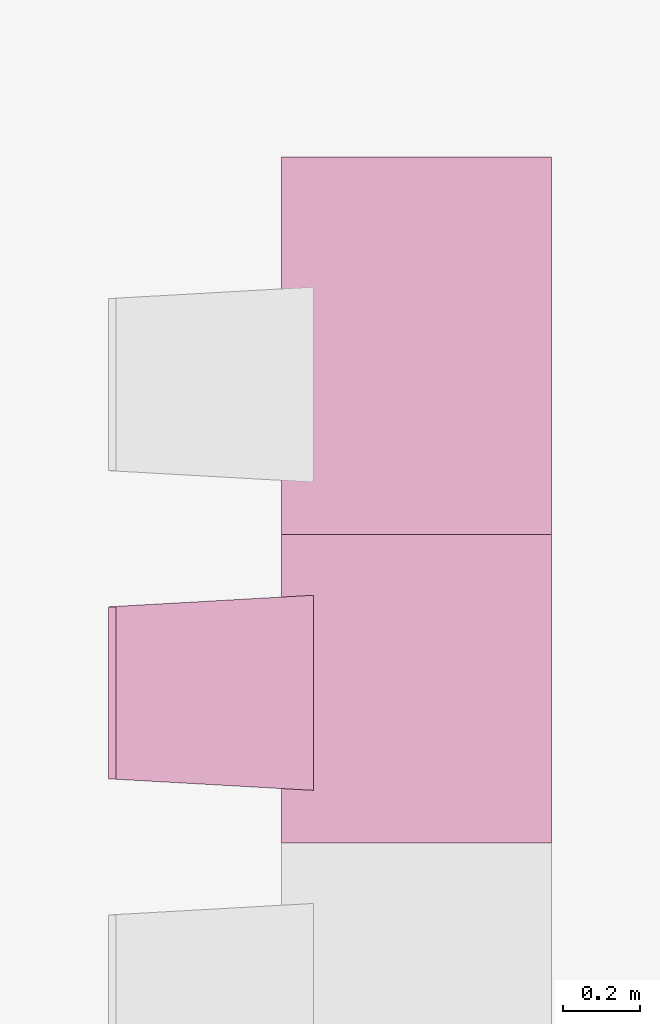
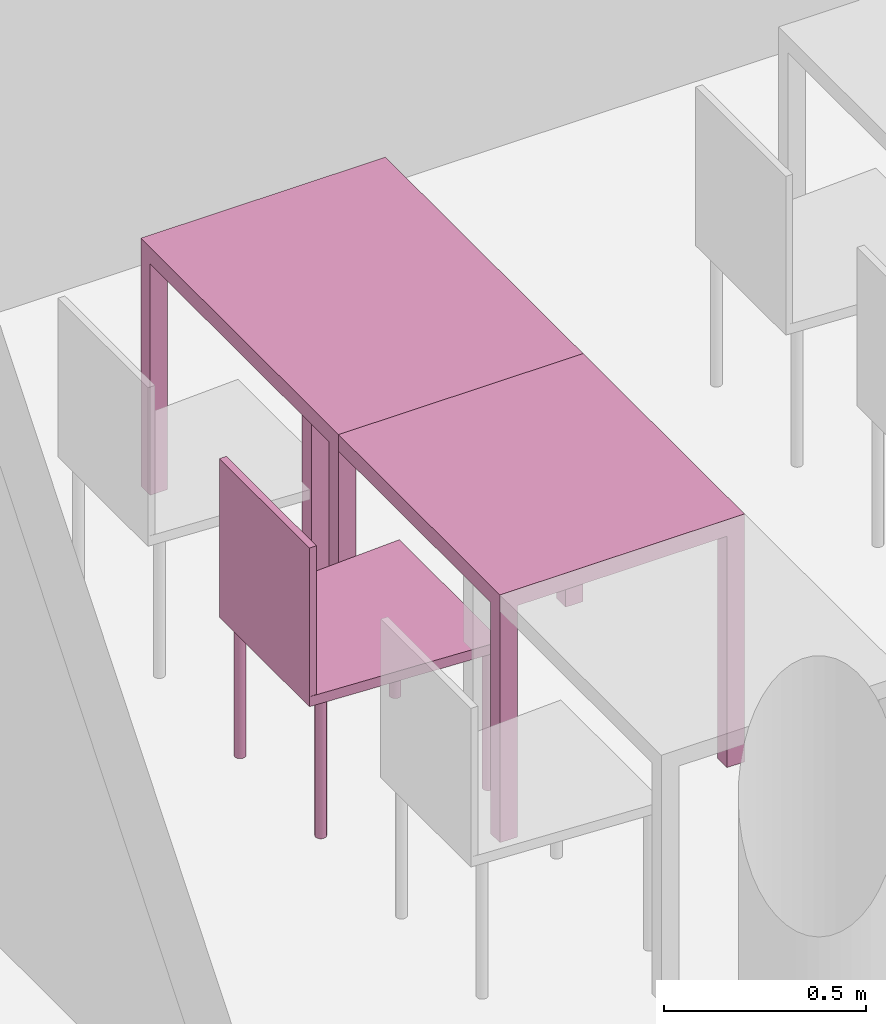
"""IFC4 building model written with IfcOpenShell, lengths in metres."""

from ifc_helpers import new_model, entity, si_unit, converted_unit, derived_unit, frame, origin, place, context, subcontext, project, spatial, faceted_brep, element, save


model = new_model("IFC4")

# Units and contexts
model_context = context("Model", 3, precision=1e-05, world=origin())
body_context = subcontext(model_context, "Body", "Model", "MODEL_VIEW")
ifc_project = project(units=[si_unit("LENGTHUNIT", "METRE"), si_unit("AREAUNIT", "SQUARE_METRE"), si_unit("VOLUMEUNIT", "CUBIC_METRE"), si_unit("MASSUNIT", "GRAM", prefix="KILO"), converted_unit("PLANEANGLEUNIT", "DEGREE", entity("IfcPlaneAngleMeasure", 0.0174532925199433), si_unit("PLANEANGLEUNIT", "RADIAN"), dimensions=[0, 0, 0, 0, 0, 0, 0]), derived_unit("THERMALTRANSMITTANCEUNIT", [(si_unit("POWERUNIT", "WATT"), 1), (si_unit("THERMODYNAMICTEMPERATUREUNIT", "KELVIN"), -1), (si_unit("LENGTHUNIT", "METRE"), -2)]), derived_unit("VOLUMETRICFLOWRATEUNIT", [(si_unit("LENGTHUNIT", "METRE"), 3), (converted_unit("TIMEUNIT", "hour", entity("IfcTimeMeasure", 3600.0), si_unit("TIMEUNIT", "SECOND"), dimensions=[0, 0, 1, 0, 0, 0, 0]), -1), (si_unit("LENGTHUNIT", "METRE"), -1)])], contexts=[model_context])

# Building, storeys
building_placement = place(None, origin())
building = spatial("IfcBuilding", under=ifc_project, at=building_placement, Name="HABITATGE PLURIFAMILIAR", CompositionType="ELEMENT")
storey_1_placement = place(building_placement, frame((0.0, 0.0, 3.35)))
storey_1 = spatial("IfcBuildingStorey", under=building, at=storey_1_placement, Name="PLANTA  ALTELL", CompositionType="ELEMENT", Elevation=3.35)
storey_2_placement = place(storey_1_placement, origin())
storey_2 = spatial("IfcBuildingStorey", under=storey_1, at=storey_2_placement, Name="NOU", CompositionType="PARTIAL")

# Furniture
furniture_1_placement = place(storey_2_placement, frame((410.511020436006, 15.6434480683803, 0.0)))
element("IfcFurniture", 1, at=furniture_1_placement, inside=storey_2, Name="Taula 80X70_PA", context=body_context, shape_type="Brep", body=[
    faceted_brep([(0.0, 0.0464285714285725, 0.0), (0.0, 0.0, 0.0), (0.0500000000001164, 0.0, 0.0), (0.0500000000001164, 0.0464285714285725, 0.0), (0.0500000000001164, 0.0464285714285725, 0.7), (0.0500000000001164, 0.0, 0.7), (0.0, 0.0, 0.7), (0.0, 0.0464285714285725, 0.7)], [[[0, 1, 2, 3]], [[4, 5, 6, 7]], [[3, 4, 7, 0]], [[2, 5, 4, 3]], [[1, 6, 5, 2]], [[0, 7, 6, 1]]], orient=[[False], [False], [False], [False], [False], [False]]),
    faceted_brep([(0.0, 0.98, 0.7), (0.0, 0.0, 0.7), (0.700069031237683, 0.0, 0.7), (0.700069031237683, 0.98, 0.7), (0.700069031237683, 0.98, 0.75), (0.700069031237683, 0.0, 0.75), (0.0, 0.0, 0.75), (0.0, 0.98, 0.75)], [[[0, 1, 2, 3]], [[4, 5, 6, 7]], [[3, 4, 7, 0]], [[2, 5, 4, 3]], [[1, 6, 5, 2]], [[0, 7, 6, 1]]], orient=[[False], [False], [False], [False], [False], [False]]),
    faceted_brep([(0.0, 0.98, 0.0), (0.0, 0.933571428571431, 0.0), (0.05, 0.933571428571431, 0.0), (0.05, 0.98, 0.0), (0.05, 0.98, 0.7), (0.05, 0.933571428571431, 0.7), (0.0, 0.933571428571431, 0.7), (0.0, 0.98, 0.7)], [[[0, 1, 2, 3]], [[4, 5, 6, 7]], [[3, 4, 7, 0]], [[2, 5, 4, 3]], [[1, 6, 5, 2]], [[0, 7, 6, 1]]], orient=[[False], [False], [False], [False], [False], [False]]),
    faceted_brep([(0.650069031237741, 0.98, 0.0), (0.650069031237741, 0.933571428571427, 0.0), (0.700069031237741, 0.933571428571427, 0.0), (0.700069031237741, 0.98, 0.0), (0.700069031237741, 0.98, 0.7), (0.700069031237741, 0.933571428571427, 0.7), (0.650069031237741, 0.933571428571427, 0.7), (0.650069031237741, 0.98, 0.7)], [[[0, 1, 2, 3]], [[4, 5, 6, 7]], [[3, 4, 7, 0]], [[2, 5, 4, 3]], [[1, 6, 5, 2]], [[0, 7, 6, 1]]], orient=[[False], [False], [False], [False], [False], [False]]),
    faceted_brep([(0.650069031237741, 0.0464285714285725, 0.0), (0.650069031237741, 0.0, 0.0), (0.700069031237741, 0.0, 0.0), (0.700069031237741, 0.0464285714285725, 0.0), (0.700069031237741, 0.0464285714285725, 0.7), (0.700069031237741, 0.0, 0.7), (0.650069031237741, 0.0, 0.7), (0.650069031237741, 0.0464285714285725, 0.7)], [[[0, 1, 2, 3]], [[4, 5, 6, 7]], [[3, 4, 7, 0]], [[2, 5, 4, 3]], [[1, 6, 5, 2]], [[0, 7, 6, 1]]], orient=[[False], [False], [False], [False], [False], [False]]),
])
furniture_2_placement = place(storey_2_placement, frame((410.511020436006, 14.8434480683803, 0.0)))
element("IfcFurniture", 2, at=furniture_2_placement, inside=storey_2, Name="Taula 80X70_PA", context=body_context, shape_type="Brep", body=[
    faceted_brep([(0.0, 0.0464285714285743, 0.0), (0.0, 0.0, 0.0), (0.0500000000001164, 0.0, 0.0), (0.0500000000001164, 0.0464285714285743, 0.0), (0.0500000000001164, 0.0464285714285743, 0.7), (0.0500000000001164, 0.0, 0.7), (0.0, 0.0, 0.7), (0.0, 0.0464285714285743, 0.7)], [[[0, 1, 2, 3]], [[4, 5, 6, 7]], [[3, 4, 7, 0]], [[2, 5, 4, 3]], [[1, 6, 5, 2]], [[0, 7, 6, 1]]], orient=[[False], [False], [False], [False], [False], [False]]),
    faceted_brep([(0.0, 0.98, 0.7), (0.0, 0.0, 0.7), (0.700069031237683, 0.0, 0.7), (0.700069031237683, 0.98, 0.7), (0.700069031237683, 0.98, 0.75), (0.700069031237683, 0.0, 0.75), (0.0, 0.0, 0.75), (0.0, 0.98, 0.75)], [[[0, 1, 2, 3]], [[4, 5, 6, 7]], [[3, 4, 7, 0]], [[2, 5, 4, 3]], [[1, 6, 5, 2]], [[0, 7, 6, 1]]], orient=[[False], [False], [False], [False], [False], [False]]),
    faceted_brep([(0.0, 0.980000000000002, 0.0), (0.0, 0.933571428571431, 0.0), (0.05, 0.933571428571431, 0.0), (0.05, 0.980000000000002, 0.0), (0.05, 0.980000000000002, 0.7), (0.05, 0.933571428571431, 0.7), (0.0, 0.933571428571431, 0.7), (0.0, 0.980000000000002, 0.7)], [[[0, 1, 2, 3]], [[4, 5, 6, 7]], [[3, 4, 7, 0]], [[2, 5, 4, 3]], [[1, 6, 5, 2]], [[0, 7, 6, 1]]], orient=[[False], [False], [False], [False], [False], [False]]),
    faceted_brep([(0.650069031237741, 0.98, 0.0), (0.650069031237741, 0.933571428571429, 0.0), (0.700069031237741, 0.933571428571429, 0.0), (0.700069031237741, 0.98, 0.0), (0.700069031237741, 0.98, 0.7), (0.700069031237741, 0.933571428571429, 0.7), (0.650069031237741, 0.933571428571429, 0.7), (0.650069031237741, 0.98, 0.7)], [[[0, 1, 2, 3]], [[4, 5, 6, 7]], [[3, 4, 7, 0]], [[2, 5, 4, 3]], [[1, 6, 5, 2]], [[0, 7, 6, 1]]], orient=[[False], [False], [False], [False], [False], [False]]),
    faceted_brep([(0.650069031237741, 0.0464285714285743, 0.0), (0.650069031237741, 0.0, 0.0), (0.700069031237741, 0.0, 0.0), (0.700069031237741, 0.0464285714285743, 0.0), (0.700069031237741, 0.0464285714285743, 0.7), (0.700069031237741, 0.0, 0.7), (0.650069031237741, 0.0, 0.7), (0.650069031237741, 0.0464285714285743, 0.7)], [[[0, 1, 2, 3]], [[4, 5, 6, 7]], [[3, 4, 7, 0]], [[2, 5, 4, 3]], [[1, 6, 5, 2]], [[0, 7, 6, 1]]], orient=[[False], [False], [False], [False], [False], [False]]),
])
furniture_3_placement = place(storey_2_placement, frame((410.061879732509, 14.9796818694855, 0.0499839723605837)))
element("IfcFurniture", 3, at=furniture_3_placement, inside=storey_2, Name="Cadira confident_PA", context=body_context, shape_type="Brep", body=[
    faceted_brep([(0.507575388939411, 0.0391636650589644, 0.0), (0.504980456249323, 0.0389479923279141, 0.0), (0.502462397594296, 0.0382849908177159, 0.0), (0.500097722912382, 0.0371948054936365, 0.0), (0.497958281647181, 0.0357105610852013, 0.0), (0.49610907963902, 0.0338773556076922, 0.0), (0.494606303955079, 0.0317508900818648, 0.0), (0.493495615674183, 0.0293957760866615, 0.0), (0.492810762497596, 0.0268835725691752, 0.0), (0.492572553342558, 0.0242906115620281, 0.0), (0.492788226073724, 0.0216956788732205, 0.0), (0.49345122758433, 0.019177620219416, 0.0), (0.494541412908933, 0.0168129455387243, 0.0), (0.496025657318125, 0.0146735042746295, 0.0), (0.497858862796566, 0.0128243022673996, 0.0), (0.499985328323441, 0.0113215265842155, 0.0), (0.502340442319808, 0.0102108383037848, 0.0), (0.504852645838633, 0.00952598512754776, 0.0), (0.507445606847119, 0.00928777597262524, 0.0), (0.510040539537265, 0.00950344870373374, 0.0), (0.512558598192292, 0.010166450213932, 0.0), (0.514923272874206, 0.0112566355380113, 0.0), (0.517062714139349, 0.0127408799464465, 0.0), (0.51891191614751, 0.0145740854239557, 0.0), (0.520414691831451, 0.0167005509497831, 0.0), (0.521525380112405, 0.0190556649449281, 0.0), (0.522210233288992, 0.0215678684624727, 0.0), (0.522448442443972, 0.024160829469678, 0.0), (0.522232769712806, 0.0267557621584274, 0.0), (0.5215697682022, 0.0292738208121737, 0.0), (0.520479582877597, 0.0316384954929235, 0.0), (0.518995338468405, 0.0337779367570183, 0.0), (0.517162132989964, 0.0356271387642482, 0.0), (0.515035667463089, 0.0371299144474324, 0.0), (0.512680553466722, 0.038240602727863, 0.0), (0.510168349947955, 0.0389254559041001, 0.0), (0.507575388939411, 0.0391636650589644, 0.448281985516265), (0.510168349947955, 0.0389254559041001, 0.448281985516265), (0.512680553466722, 0.038240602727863, 0.448281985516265), (0.515035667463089, 0.0371299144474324, 0.448281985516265), (0.517162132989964, 0.0356271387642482, 0.448281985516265), (0.518995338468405, 0.0337779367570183, 0.448281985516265), (0.520479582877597, 0.0316384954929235, 0.448281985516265), (0.5215697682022, 0.0292738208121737, 0.448281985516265), (0.522232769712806, 0.0267557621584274, 0.448281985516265), (0.522448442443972, 0.024160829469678, 0.448281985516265), (0.522210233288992, 0.0215678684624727, 0.448281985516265), (0.521525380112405, 0.0190556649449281, 0.448281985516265), (0.520414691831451, 0.0167005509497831, 0.448281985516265), (0.51891191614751, 0.0145740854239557, 0.448281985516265), (0.517062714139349, 0.0127408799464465, 0.448281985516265), (0.514923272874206, 0.0112566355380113, 0.448281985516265), (0.512558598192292, 0.010166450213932, 0.448281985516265), (0.510040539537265, 0.00950344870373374, 0.448281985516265), (0.507445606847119, 0.00928777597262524, 0.448281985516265), (0.504852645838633, 0.00952598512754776, 0.448281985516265), (0.502340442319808, 0.0102108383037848, 0.448281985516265), (0.499985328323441, 0.0113215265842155, 0.448281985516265), (0.497858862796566, 0.0128243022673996, 0.448281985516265), (0.496025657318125, 0.0146735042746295, 0.448281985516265), (0.494541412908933, 0.0168129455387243, 0.448281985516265), (0.49345122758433, 0.019177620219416, 0.448281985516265), (0.492788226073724, 0.0216956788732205, 0.448281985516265), (0.492572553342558, 0.0242906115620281, 0.448281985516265), (0.492810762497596, 0.0268835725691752, 0.448281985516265), (0.493495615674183, 0.0293957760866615, 0.448281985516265), (0.494606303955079, 0.0317508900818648, 0.448281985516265), (0.49610907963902, 0.0338773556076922, 0.448281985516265), (0.497958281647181, 0.0357105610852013, 0.448281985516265), (0.500097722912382, 0.0371948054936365, 0.448281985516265), (0.502462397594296, 0.0382849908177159, 0.448281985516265), (0.504980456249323, 0.0389479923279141, 0.448281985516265)], [[[0, 1, 2, 3, 4, 5, 6, 7, 8, 9, 10, 11, 12, 13, 14, 15, 16, 17, 18, 19, 20, 21, 22, 23, 24, 25, 26, 27, 28, 29, 30, 31, 32, 33, 34, 35]], [[36, 37, 38, 39, 40, 41, 42, 43, 44, 45, 46, 47, 48, 49, 50, 51, 52, 53, 54, 55, 56, 57, 58, 59, 60, 61, 62, 63, 64, 65, 66, 67, 68, 69, 70, 71]], [[1, 0, 36, 71]], [[2, 1, 71, 70]], [[3, 2, 70, 69]], [[4, 3, 69, 68]], [[5, 4, 68, 67]], [[6, 5, 67, 66]], [[7, 6, 66, 65]], [[8, 7, 65, 64]], [[9, 8, 64, 63]], [[10, 9, 63, 62]], [[11, 10, 62, 61]], [[12, 11, 61, 60]], [[13, 12, 60, 59]], [[14, 13, 59, 58]], [[15, 14, 58, 57]], [[16, 15, 57, 56]], [[17, 16, 56, 55]], [[18, 17, 55, 54]], [[19, 18, 54, 53]], [[20, 19, 53, 52]], [[21, 20, 52, 51]], [[22, 21, 51, 50]], [[23, 22, 50, 49]], [[24, 23, 49, 48]], [[25, 24, 48, 47]], [[26, 25, 47, 46]], [[27, 26, 46, 45]], [[28, 27, 45, 44]], [[29, 28, 44, 43]], [[30, 29, 43, 42]], [[31, 30, 42, 41]], [[32, 31, 41, 40]], [[33, 32, 40, 39]], [[34, 33, 39, 38]], [[35, 34, 38, 37]], [[0, 35, 37, 36]]], orient=[[False], [False], [False], [False], [False], [False], [False], [False], [False], [False], [False], [False], [False], [False], [False], [False], [False], [False], [False], [False], [False], [False], [False], [False], [False], [False], [False], [False], [False], [False], [False], [False], [False], [False], [False], [False], [False], [False]]),
    faceted_brep([(0.0451683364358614, 0.0668016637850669, 0.0), (0.042573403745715, 0.0665859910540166, 0.0), (0.0400553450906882, 0.065922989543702, 0.0), (0.0376906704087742, 0.0648328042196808, 0.0), (0.0355512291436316, 0.0633485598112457, 0.0), (0.0337020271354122, 0.0615153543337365, 0.0), (0.0321992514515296, 0.0593888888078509, 0.0), (0.0310885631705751, 0.057033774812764, 0.0), (0.0304037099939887, 0.0545215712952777, 0.0), (0.0301655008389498, 0.0519286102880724, 0.0), (0.0303811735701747, 0.0493336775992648, 0.0), (0.0310441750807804, 0.0468156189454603, 0.0), (0.0321343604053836, 0.0444509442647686, 0.0), (0.0336186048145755, 0.0423115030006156, 0.0), (0.035451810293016, 0.0404623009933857, 0.0), (0.0375782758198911, 0.0389595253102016, 0.0), (0.0399333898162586, 0.0378488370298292, 0.0), (0.0424455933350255, 0.0371639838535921, 0.0), (0.0450385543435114, 0.0369257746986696, 0.0), (0.0476334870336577, 0.0371414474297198, 0.0), (0.0501515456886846, 0.0378044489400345, 0.0), (0.0525162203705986, 0.0388946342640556, 0.0), (0.0546556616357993, 0.0403788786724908, 0.0), (0.0565048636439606, 0.0422120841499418, 0.0), (0.0580076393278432, 0.0443385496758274, 0.0), (0.0591183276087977, 0.0466936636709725, 0.0), (0.059803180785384, 0.0492058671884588, 0.0), (0.060041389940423, 0.0517988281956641, 0.0), (0.059825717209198, 0.0543937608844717, 0.0), (0.0591627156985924, 0.0569118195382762, 0.0), (0.0580725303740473, 0.0592764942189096, 0.0), (0.0565882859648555, 0.0614159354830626, 0.0), (0.054755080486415, 0.0632651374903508, 0.0), (0.0526286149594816, 0.0647679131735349, 0.0), (0.0502735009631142, 0.0658786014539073, 0.0), (0.0477612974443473, 0.0665634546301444, 0.0), (0.0451683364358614, 0.0668016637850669, 0.448281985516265), (0.0477612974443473, 0.0665634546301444, 0.448281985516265), (0.0502735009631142, 0.0658786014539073, 0.448281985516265), (0.0526286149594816, 0.0647679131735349, 0.448281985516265), (0.054755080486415, 0.0632651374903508, 0.448281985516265), (0.0565882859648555, 0.0614159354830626, 0.448281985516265), (0.0580725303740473, 0.0592764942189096, 0.448281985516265), (0.0591627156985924, 0.0569118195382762, 0.448281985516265), (0.059825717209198, 0.0543937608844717, 0.448281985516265), (0.060041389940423, 0.0517988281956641, 0.448281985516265), (0.059803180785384, 0.0492058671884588, 0.448281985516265), (0.0591183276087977, 0.0466936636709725, 0.448281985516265), (0.0580076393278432, 0.0443385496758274, 0.448281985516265), (0.0565048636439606, 0.0422120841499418, 0.448281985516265), (0.0546556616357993, 0.0403788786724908, 0.448281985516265), (0.0525162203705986, 0.0388946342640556, 0.448281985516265), (0.0501515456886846, 0.0378044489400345, 0.448281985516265), (0.0476334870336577, 0.0371414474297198, 0.448281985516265), (0.0450385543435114, 0.0369257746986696, 0.448281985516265), (0.0424455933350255, 0.0371639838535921, 0.448281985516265), (0.0399333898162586, 0.0378488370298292, 0.448281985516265), (0.0375782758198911, 0.0389595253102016, 0.448281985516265), (0.035451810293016, 0.0404623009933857, 0.448281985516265), (0.0336186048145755, 0.0423115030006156, 0.448281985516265), (0.0321343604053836, 0.0444509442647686, 0.448281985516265), (0.0310441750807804, 0.0468156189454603, 0.448281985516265), (0.0303811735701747, 0.0493336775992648, 0.448281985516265), (0.0301655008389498, 0.0519286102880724, 0.448281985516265), (0.0304037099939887, 0.0545215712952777, 0.448281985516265), (0.0310885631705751, 0.057033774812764, 0.448281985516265), (0.0321992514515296, 0.0593888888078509, 0.448281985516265), (0.0337020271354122, 0.0615153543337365, 0.448281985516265), (0.0355512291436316, 0.0633485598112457, 0.448281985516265), (0.0376906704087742, 0.0648328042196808, 0.448281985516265), (0.0400553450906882, 0.065922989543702, 0.448281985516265), (0.042573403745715, 0.0665859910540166, 0.448281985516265)], [[[0, 1, 2, 3, 4, 5, 6, 7, 8, 9, 10, 11, 12, 13, 14, 15, 16, 17, 18, 19, 20, 21, 22, 23, 24, 25, 26, 27, 28, 29, 30, 31, 32, 33, 34, 35]], [[36, 37, 38, 39, 40, 41, 42, 43, 44, 45, 46, 47, 48, 49, 50, 51, 52, 53, 54, 55, 56, 57, 58, 59, 60, 61, 62, 63, 64, 65, 66, 67, 68, 69, 70, 71]], [[1, 0, 36, 71]], [[2, 1, 71, 70]], [[3, 2, 70, 69]], [[4, 3, 69, 68]], [[5, 4, 68, 67]], [[6, 5, 67, 66]], [[7, 6, 66, 65]], [[8, 7, 65, 64]], [[9, 8, 64, 63]], [[10, 9, 63, 62]], [[11, 10, 62, 61]], [[12, 11, 61, 60]], [[13, 12, 60, 59]], [[14, 13, 59, 58]], [[15, 14, 58, 57]], [[16, 15, 57, 56]], [[17, 16, 56, 55]], [[18, 17, 55, 54]], [[19, 18, 54, 53]], [[20, 19, 53, 52]], [[21, 20, 52, 51]], [[22, 21, 51, 50]], [[23, 22, 50, 49]], [[24, 23, 49, 48]], [[25, 24, 48, 47]], [[26, 25, 47, 46]], [[27, 26, 46, 45]], [[28, 27, 45, 44]], [[29, 28, 44, 43]], [[30, 29, 43, 42]], [[31, 30, 42, 41]], [[32, 31, 41, 40]], [[33, 32, 40, 39]], [[34, 33, 39, 38]], [[35, 34, 38, 37]], [[0, 35, 37, 36]]], orient=[[False], [False], [False], [False], [False], [False], [False], [False], [False], [False], [False], [False], [False], [False], [False], [False], [False], [False], [False], [False], [False], [False], [False], [False], [False], [False], [False], [False], [False], [False], [False], [False], [False], [False], [False], [False], [False], [False]]),
    faceted_brep([(0.507575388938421, 0.499163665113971, 0.0), (0.504980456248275, 0.49894799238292, 0.0), (0.502462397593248, 0.498284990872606, 0.0), (0.500097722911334, 0.497194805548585, 0.0), (0.497958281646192, 0.495710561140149, 0.0), (0.49610907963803, 0.493877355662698, 0.0), (0.49460630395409, 0.491750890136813, 0.0), (0.493495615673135, 0.489395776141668, 0.0), (0.492810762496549, 0.486883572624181, 0.0), (0.492572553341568, 0.484290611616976, 0.0), (0.492788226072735, 0.481695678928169, 0.0), (0.49345122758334, 0.479177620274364, 0.0), (0.494541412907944, 0.476812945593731, 0.0), (0.496025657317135, 0.474673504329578, 0.0), (0.497858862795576, 0.472824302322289, 0.0), (0.499985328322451, 0.471321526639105, 0.0), (0.502340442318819, 0.470210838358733, 0.0), (0.504852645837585, 0.469525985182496, 0.0), (0.507445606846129, 0.469287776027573, 0.0), (0.510040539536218, 0.469503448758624, 0.0), (0.512558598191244, 0.470166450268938, 0.0), (0.514923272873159, 0.471256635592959, 0.0), (0.517062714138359, 0.472740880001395, 0.0), (0.518911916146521, 0.474574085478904, 0.0), (0.520414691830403, 0.476700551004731, 0.0), (0.521525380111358, 0.479055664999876, 0.0), (0.522210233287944, 0.481567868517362, 0.0), (0.522448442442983, 0.484160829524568, 0.0), (0.522232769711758, 0.486755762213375, 0.0), (0.521569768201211, 0.48927382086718, 0.0), (0.520479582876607, 0.491638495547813, 0.0), (0.518995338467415, 0.493777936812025, 0.0), (0.517162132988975, 0.495627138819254, 0.0), (0.515035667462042, 0.497129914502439, 0.0), (0.512680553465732, 0.498240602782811, 0.0), (0.510168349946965, 0.498925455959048, 0.0), (0.507575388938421, 0.499163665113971, 0.448281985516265), (0.510168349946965, 0.498925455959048, 0.448281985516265), (0.512680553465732, 0.498240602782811, 0.448281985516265), (0.515035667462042, 0.497129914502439, 0.448281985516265), (0.517162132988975, 0.495627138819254, 0.448281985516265), (0.518995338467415, 0.493777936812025, 0.448281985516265), (0.520479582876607, 0.491638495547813, 0.448281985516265), (0.521569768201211, 0.48927382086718, 0.448281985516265), (0.522232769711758, 0.486755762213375, 0.448281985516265), (0.522448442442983, 0.484160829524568, 0.448281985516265), (0.522210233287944, 0.481567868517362, 0.448281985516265), (0.521525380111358, 0.479055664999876, 0.448281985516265), (0.520414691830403, 0.476700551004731, 0.448281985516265), (0.518911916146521, 0.474574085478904, 0.448281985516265), (0.517062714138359, 0.472740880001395, 0.448281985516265), (0.514923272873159, 0.471256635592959, 0.448281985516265), (0.512558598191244, 0.470166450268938, 0.448281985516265), (0.510040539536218, 0.469503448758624, 0.448281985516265), (0.507445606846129, 0.469287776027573, 0.448281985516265), (0.504852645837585, 0.469525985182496, 0.448281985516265), (0.502340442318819, 0.470210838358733, 0.448281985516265), (0.499985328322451, 0.471321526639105, 0.448281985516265), (0.497858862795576, 0.472824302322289, 0.448281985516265), (0.496025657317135, 0.474673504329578, 0.448281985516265), (0.494541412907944, 0.476812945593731, 0.448281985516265), (0.49345122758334, 0.479177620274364, 0.448281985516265), (0.492788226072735, 0.481695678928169, 0.448281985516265), (0.492572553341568, 0.484290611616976, 0.448281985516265), (0.492810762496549, 0.486883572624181, 0.448281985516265), (0.493495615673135, 0.489395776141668, 0.448281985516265), (0.49460630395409, 0.491750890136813, 0.448281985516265), (0.49610907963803, 0.493877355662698, 0.448281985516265), (0.497958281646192, 0.495710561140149, 0.448281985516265), (0.500097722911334, 0.497194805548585, 0.448281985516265), (0.502462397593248, 0.498284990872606, 0.448281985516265), (0.504980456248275, 0.49894799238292, 0.448281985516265)], [[[0, 1, 2, 3, 4, 5, 6, 7, 8, 9, 10, 11, 12, 13, 14, 15, 16, 17, 18, 19, 20, 21, 22, 23, 24, 25, 26, 27, 28, 29, 30, 31, 32, 33, 34, 35]], [[36, 37, 38, 39, 40, 41, 42, 43, 44, 45, 46, 47, 48, 49, 50, 51, 52, 53, 54, 55, 56, 57, 58, 59, 60, 61, 62, 63, 64, 65, 66, 67, 68, 69, 70, 71]], [[1, 0, 36, 71]], [[2, 1, 71, 70]], [[3, 2, 70, 69]], [[4, 3, 69, 68]], [[5, 4, 68, 67]], [[6, 5, 67, 66]], [[7, 6, 66, 65]], [[8, 7, 65, 64]], [[9, 8, 64, 63]], [[10, 9, 63, 62]], [[11, 10, 62, 61]], [[12, 11, 61, 60]], [[13, 12, 60, 59]], [[14, 13, 59, 58]], [[15, 14, 58, 57]], [[16, 15, 57, 56]], [[17, 16, 56, 55]], [[18, 17, 55, 54]], [[19, 18, 54, 53]], [[20, 19, 53, 52]], [[21, 20, 52, 51]], [[22, 21, 51, 50]], [[23, 22, 50, 49]], [[24, 23, 49, 48]], [[25, 24, 48, 47]], [[26, 25, 47, 46]], [[27, 26, 46, 45]], [[28, 27, 45, 44]], [[29, 28, 44, 43]], [[30, 29, 43, 42]], [[31, 30, 42, 41]], [[32, 31, 41, 40]], [[33, 32, 40, 39]], [[34, 33, 39, 38]], [[35, 34, 38, 37]], [[0, 35, 37, 36]]], orient=[[False], [False], [False], [False], [False], [False], [False], [False], [False], [False], [False], [False], [False], [False], [False], [False], [False], [False], [False], [False], [False], [False], [False], [False], [False], [False], [False], [False], [False], [False], [False], [False], [False], [False], [False], [False], [False], [False]]),
    faceted_brep([(0.0451683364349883, 0.466801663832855, 0.0), (0.0425734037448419, 0.466585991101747, 0.0), (0.0400553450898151, 0.46592298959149, 0.0), (0.0376906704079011, 0.464832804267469, 0.0), (0.0355512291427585, 0.463348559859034, 0.0), (0.0337020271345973, 0.461515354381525, 0.0), (0.0321992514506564, 0.459388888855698, 0.0), (0.031088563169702, 0.457033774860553, 0.0), (0.0304037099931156, 0.454521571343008, 0.0), (0.0301655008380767, 0.451928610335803, 0.0), (0.0303811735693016, 0.449333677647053, 0.0), (0.0310441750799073, 0.446815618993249, 0.0), (0.0321343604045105, 0.444450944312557, 0.0), (0.0336186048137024, 0.442311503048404, 0.0), (0.0354518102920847, 0.440462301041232, 0.0), (0.037578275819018, 0.43895952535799, 0.0), (0.0399333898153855, 0.437848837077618, 0.0), (0.0424455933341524, 0.437163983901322, 0.0), (0.0450385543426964, 0.436925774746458, 0.0), (0.0476334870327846, 0.437141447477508, 0.0), (0.0501515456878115, 0.437804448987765, 0.0), (0.0525162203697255, 0.438894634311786, 0.0), (0.054655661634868, 0.440378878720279, 0.0), (0.0565048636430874, 0.44221208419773, 0.0), (0.0580076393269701, 0.444338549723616, 0.0), (0.0591183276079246, 0.446693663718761, 0.0), (0.0598031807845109, 0.449205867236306, 0.0), (0.0600413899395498, 0.451798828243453, 0.0), (0.0598257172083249, 0.45439376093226, 0.0), (0.0591627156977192, 0.456911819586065, 0.0), (0.058072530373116, 0.459276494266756, 0.0), (0.0565882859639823, 0.461415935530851, 0.0), (0.0547550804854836, 0.463265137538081, 0.0), (0.0526286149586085, 0.464767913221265, 0.0), (0.0502735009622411, 0.465878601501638, 0.0), (0.0477612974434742, 0.466563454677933, 0.0), (0.0451683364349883, 0.466801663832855, 0.448281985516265), (0.0477612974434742, 0.466563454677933, 0.448281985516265), (0.0502735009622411, 0.465878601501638, 0.448281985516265), (0.0526286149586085, 0.464767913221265, 0.448281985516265), (0.0547550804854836, 0.463265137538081, 0.448281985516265), (0.0565882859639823, 0.461415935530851, 0.448281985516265), (0.058072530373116, 0.459276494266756, 0.448281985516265), (0.0591627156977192, 0.456911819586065, 0.448281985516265), (0.0598257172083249, 0.45439376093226, 0.448281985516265), (0.0600413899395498, 0.451798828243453, 0.448281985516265), (0.0598031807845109, 0.449205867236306, 0.448281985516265), (0.0591183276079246, 0.446693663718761, 0.448281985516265), (0.0580076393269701, 0.444338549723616, 0.448281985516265), (0.0565048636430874, 0.44221208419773, 0.448281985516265), (0.054655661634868, 0.440378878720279, 0.448281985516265), (0.0525162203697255, 0.438894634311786, 0.448281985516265), (0.0501515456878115, 0.437804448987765, 0.448281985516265), (0.0476334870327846, 0.437141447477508, 0.448281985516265), (0.0450385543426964, 0.436925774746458, 0.448281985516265), (0.0424455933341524, 0.437163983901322, 0.448281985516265), (0.0399333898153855, 0.437848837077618, 0.448281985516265), (0.037578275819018, 0.43895952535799, 0.448281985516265), (0.0354518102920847, 0.440462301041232, 0.448281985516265), (0.0336186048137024, 0.442311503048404, 0.448281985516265), (0.0321343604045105, 0.444450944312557, 0.448281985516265), (0.0310441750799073, 0.446815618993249, 0.448281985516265), (0.0303811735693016, 0.449333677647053, 0.448281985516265), (0.0301655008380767, 0.451928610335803, 0.448281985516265), (0.0304037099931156, 0.454521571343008, 0.448281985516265), (0.031088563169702, 0.457033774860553, 0.448281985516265), (0.0321992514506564, 0.459388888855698, 0.448281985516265), (0.0337020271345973, 0.461515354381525, 0.448281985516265), (0.0355512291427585, 0.463348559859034, 0.448281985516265), (0.0376906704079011, 0.464832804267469, 0.448281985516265), (0.0400553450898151, 0.46592298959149, 0.448281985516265), (0.0425734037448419, 0.466585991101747, 0.448281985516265)], [[[0, 1, 2, 3, 4, 5, 6, 7, 8, 9, 10, 11, 12, 13, 14, 15, 16, 17, 18, 19, 20, 21, 22, 23, 24, 25, 26, 27, 28, 29, 30, 31, 32, 33, 34, 35]], [[36, 37, 38, 39, 40, 41, 42, 43, 44, 45, 46, 47, 48, 49, 50, 51, 52, 53, 54, 55, 56, 57, 58, 59, 60, 61, 62, 63, 64, 65, 66, 67, 68, 69, 70, 71]], [[1, 0, 36, 71]], [[2, 1, 71, 70]], [[3, 2, 70, 69]], [[4, 3, 69, 68]], [[5, 4, 68, 67]], [[6, 5, 67, 66]], [[7, 6, 66, 65]], [[8, 7, 65, 64]], [[9, 8, 64, 63]], [[10, 9, 63, 62]], [[11, 10, 62, 61]], [[12, 11, 61, 60]], [[13, 12, 60, 59]], [[14, 13, 59, 58]], [[15, 14, 58, 57]], [[16, 15, 57, 56]], [[17, 16, 56, 55]], [[18, 17, 55, 54]], [[19, 18, 54, 53]], [[20, 19, 53, 52]], [[21, 20, 52, 51]], [[22, 21, 51, 50]], [[23, 22, 50, 49]], [[24, 23, 49, 48]], [[25, 24, 48, 47]], [[26, 25, 47, 46]], [[27, 26, 46, 45]], [[28, 27, 45, 44]], [[29, 28, 44, 43]], [[30, 29, 43, 42]], [[31, 30, 42, 41]], [[32, 31, 41, 40]], [[33, 32, 40, 39]], [[34, 33, 39, 38]], [[35, 34, 38, 37]], [[0, 35, 37, 36]]], orient=[[False], [False], [False], [False], [False], [False], [False], [False], [False], [False], [False], [False], [False], [False], [False], [False], [False], [False], [False], [False], [False], [False], [False], [False], [False], [False], [False], [False], [False], [False], [False], [False], [False], [False], [False], [False], [False], [False]]),
    faceted_brep([(0.0, 0.476514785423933, 0.418281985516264), (0.0, 0.0300000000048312, 0.418281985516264), (0.532607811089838, 0.0, 0.418281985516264), (0.532607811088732, 0.506514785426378, 0.418281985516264), (0.532607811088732, 0.506514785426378, 0.448281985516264), (0.532607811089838, 0.0, 0.448281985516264), (0.0, 0.0300000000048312, 0.448281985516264), (0.0, 0.476514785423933, 0.448281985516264)], [[[0, 1, 2, 3]], [[4, 5, 6, 7]], [[3, 4, 7, 0]], [[2, 5, 4, 3]], [[1, 6, 5, 2]], [[0, 7, 6, 1]]], orient=[[False], [False], [False], [False], [False], [False]]),
    faceted_brep([(0.0200000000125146, 0.476514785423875, 0.448281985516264), (0.0, 0.476514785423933, 0.448281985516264), (0.0, 0.0300000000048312, 0.448281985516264), (0.0200000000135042, 0.0300000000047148, 0.448281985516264), (0.0200000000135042, 0.0300000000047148, 0.898281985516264), (0.0, 0.0300000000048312, 0.898281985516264), (0.0, 0.476514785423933, 0.898281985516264), (0.0200000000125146, 0.476514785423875, 0.898281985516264)], [[[0, 1, 2, 3]], [[4, 5, 6, 7]], [[3, 4, 7, 0]], [[2, 5, 4, 3]], [[1, 6, 5, 2]], [[0, 7, 6, 1]]], orient=[[False], [False], [False], [False], [False], [False]]),
])

save(model, "model.ifc")
